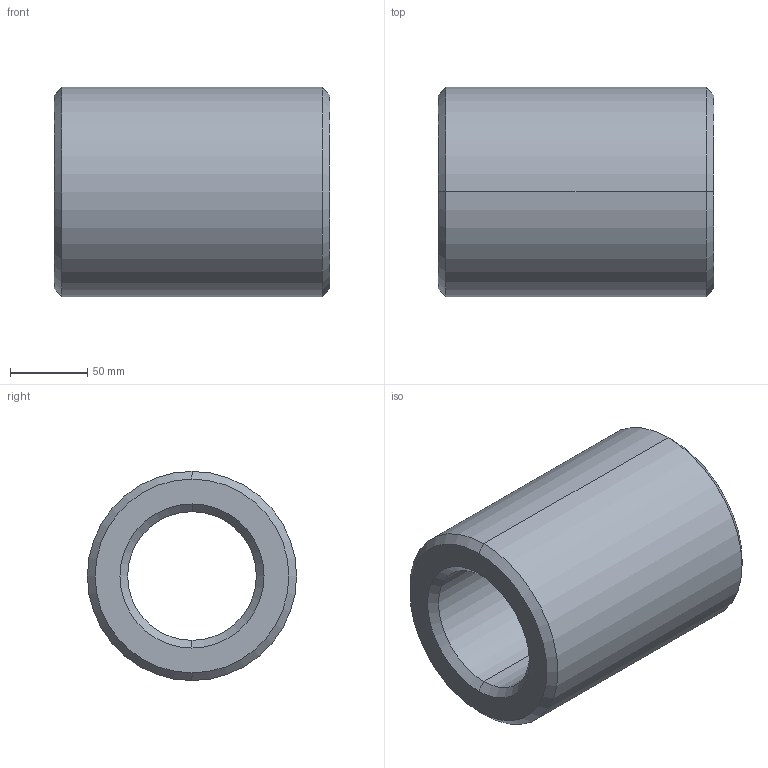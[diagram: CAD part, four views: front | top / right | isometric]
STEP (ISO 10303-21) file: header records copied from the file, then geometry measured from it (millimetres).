
FILE_DESCRIPTION (( 'STEP AP203' ), '1' );
FILE_NAME ('Muffe M85.STEP', '2018-02-22T09:29:24', ( 'install' ), ( 'Hewlett-Packard Company' ), 'SwSTEP 2.0', 'SolidWorks 2017', '' );
FILE_SCHEMA (( 'CONFIG_CONTROL_DESIGN' ));
Length unit declared in the file: millimetre
Products named in the file (1): Muffe M85
Bounding box: 178 x 135 x 135 mm (x, y, z)
Volume: 1567661 mm3; surface area: 135701 mm2
Topology: 1 solids, 1 shells, 14 faces, 28 edges, 16 vertices
Faces by surface type: cone 8, cylinder 4, plane 2
Entity records: 445 total; most frequent: DIRECTION 74, CARTESIAN_POINT 59, ORIENTED_EDGE 56, AXIS2_PLACEMENT_3D 31, EDGE_CURVE 28, EDGE_LOOP 16, VERTEX_POINT 16, CIRCLE 16
